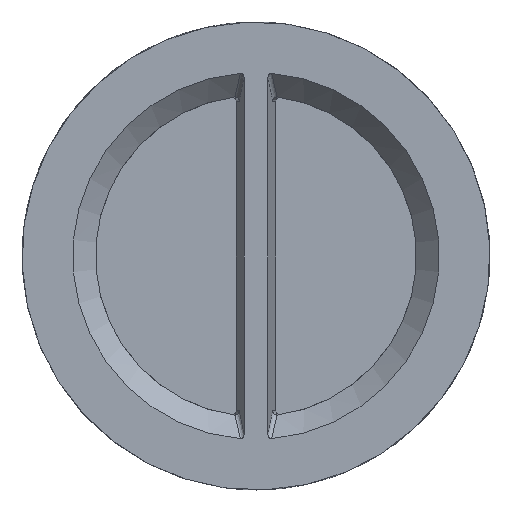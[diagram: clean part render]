
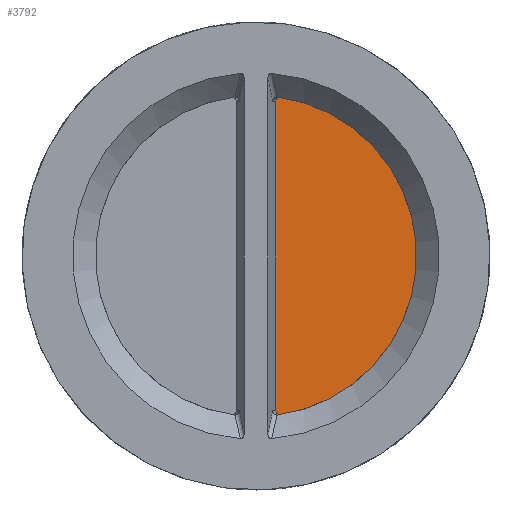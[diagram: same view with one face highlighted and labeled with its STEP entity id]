
A CAD part, front view. The second image highlights one B-rep face of the part: STEP entity #3792.
In plain terms, the highlighted planar face has unit normal (0, -1, 0) as drawn and (0, 0, 1) by its records, which use the part's own axes.
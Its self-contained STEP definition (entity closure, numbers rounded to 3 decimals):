
#3792=ADVANCED_FACE('',(#7463),#7465,.T.);
#7463=FACE_BOUND('',#7464,.T.);
#7464=EDGE_LOOP('',(#19335,#19336));
#7465=PLANE('',#7466);
#7466=AXIS2_PLACEMENT_3D('',#7467,#7468,#7469);
#7467=CARTESIAN_POINT('',(0.,0.,29.99));
#7468=DIRECTION('',(0.,0.,1.));
#7469=DIRECTION('',(-1.,0.,0.));
#19335=ORIENTED_EDGE('',*,*,#20480,.T.);
#19336=ORIENTED_EDGE('',*,*,#20506,.T.);
#20480=EDGE_CURVE('',#22258,#22256,#22259,.T.);
#20506=EDGE_CURVE('',#22256,#22258,#22302,.T.);
#22256=VERTEX_POINT('',#36094);
#22258=VERTEX_POINT('',#36098);
#22259=CIRCLE('',#36099,127.);
#22302=LINE('',#36361,#36362);
#36094=CARTESIAN_POINT('',(126.758,-7.833,29.99));
#36098=CARTESIAN_POINT('',(-126.758,-7.833,29.99));
#36099=AXIS2_PLACEMENT_3D('',#36100,#36101,#36102);
#36100=CARTESIAN_POINT('',(0.,0.,29.99));
#36101=DIRECTION('',(0.,0.,1.));
#36102=DIRECTION('',(-0.998,-0.062,0.));
#36361=CARTESIAN_POINT('',(126.758,-7.833,29.99));
#36362=VECTOR('',#36363,1.);
#36363=DIRECTION('',(-1.,0.,0.));
